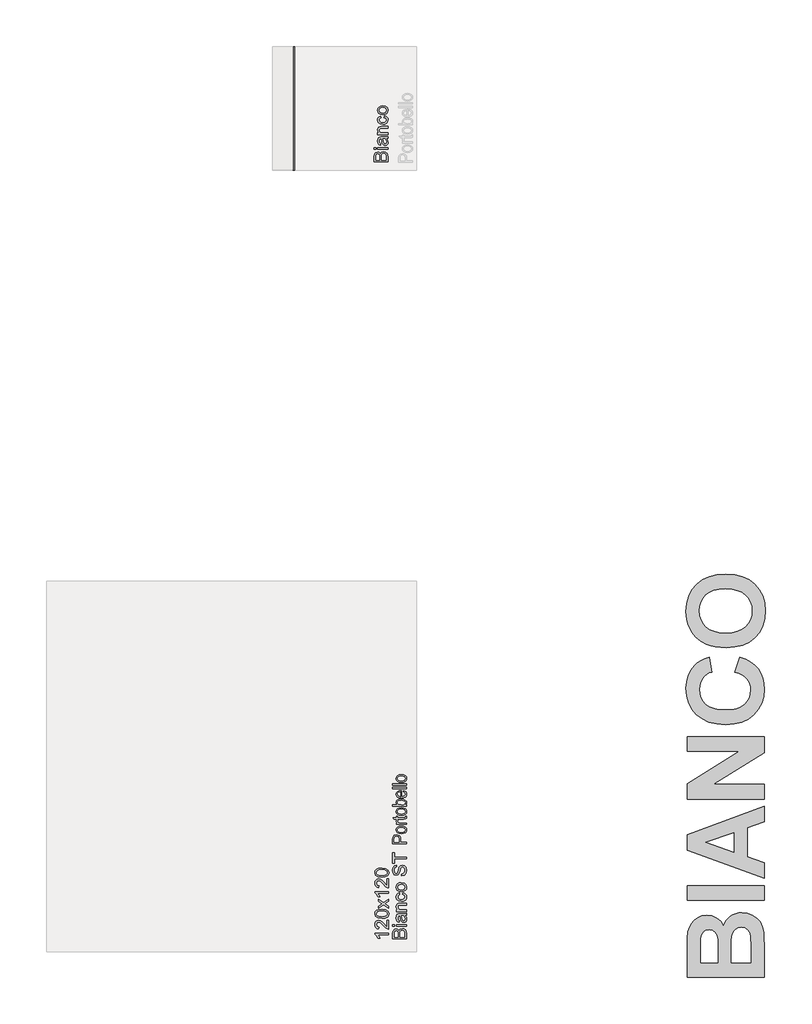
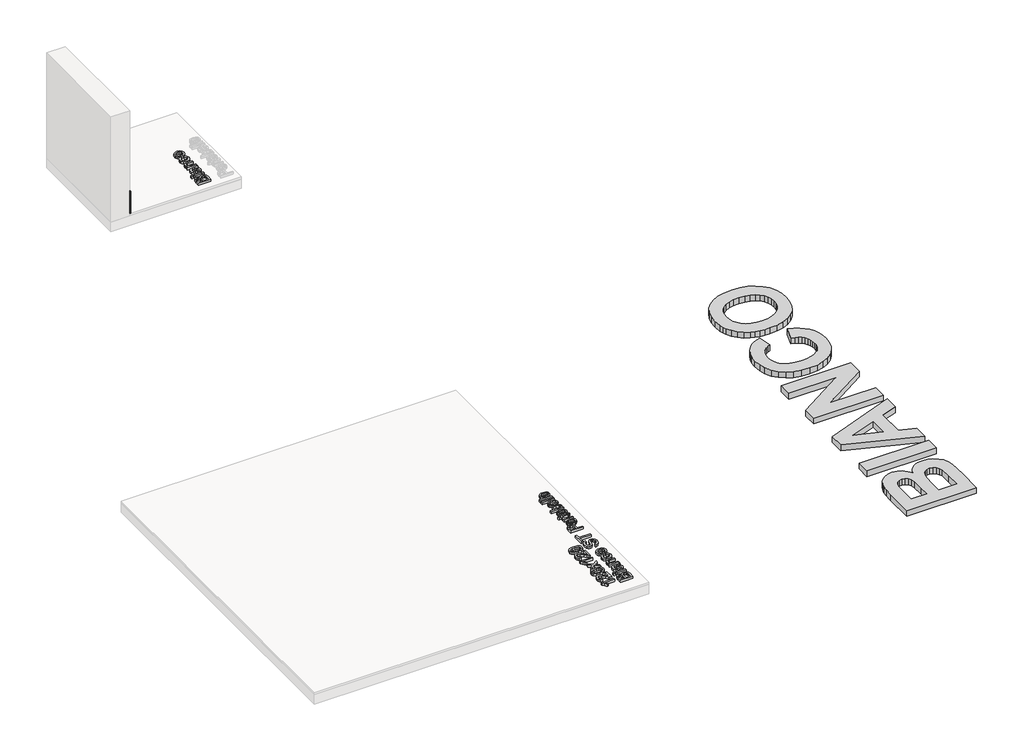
# One storey, part 12 of 14: 6 proxies.
"""IFC4 building model written with IfcOpenShell, lengths in millimetres."""

from ifc_helpers import new_model, si_unit, frame, origin, origin_with_axes, place, context, project, spatial, polyline, outline, extrude, element, save
from ifc_brep_helpers import plane_surface, extruded_surface, spline_curve, advanced_brep

model = new_model("IFC4")

# Units and contexts
model_context = context("Model", 3, world=origin())
ifc_project = project(units=[si_unit("LENGTHUNIT", "METRE", prefix="MILLI")], contexts=[model_context])

# Site, building, storey
site = spatial("IfcSite", under=ifc_project)
building = spatial("IfcBuilding", under=site)
storey = spatial("IfcBuildingStorey", under=building, Name="PORTOBELLO - SHOWROOM", Elevation=0.0)

# Proxies
placement = place(None, origin())
element("IfcBuildingElementProxy", 1, Name="RODAPE CRISTALLO BIANCO 20X90 NAT RET", ObjectType="RODAPE CRISTALLO BIANCO 20X90 NAT RET", at=placement, inside=storey, context=model_context, shape_type="AdvancedBrep", body=[
    advanced_brep(
    [(-5177.6369429, 22535.3842114, 217.0), (-5177.6369429, 22535.3842114, 17.0), (-5169.6369429, 22535.3842114, 17.0), (-5169.6369429, 22535.3842114, 209.0), (-5177.6369429, 23435.3842114, 217.0), (-5169.6369429, 23435.3842114, 209.0), (-5169.6369429, 23435.3842114, 17.0), (-5177.6369429, 23435.3842114, 17.0)],
    [
        (0, 1),
        (1, 2),
        (2, 3),
        (3, 0, spline_curve(3, [(-5169.6369429, 22535.3842114, 209.0), (-5169.6369429, 22535.3842114, 214.333333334), (-5172.303609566, 22535.3842114, 217.0), (-5177.6369429, 22535.3842114, 217.0)], [4, 4], [0.0, 0.029527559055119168])),
        (4, 5, spline_curve(3, [(-5177.6369429, 23435.3842114, 217.0), (-5172.303609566, 23435.3842114, 217.0), (-5169.6369429, 23435.3842114, 214.333333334), (-5169.6369429, 23435.3842114, 209.0)], [4, 4], [0.0, 0.029527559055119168])),
        (5, 6),
        (6, 7),
        (7, 4),
        (0, 4),
        (7, 1),
        (6, 2),
        (5, 3),
    ],
    [
        plane_surface(frame((-5377.6369429, 22535.3842114, 17.0), z_axis=(0.0, -1.0, 0.0), x_axis=(0.0, 0.0, 1.0))),
        plane_surface(frame((-5377.6369429, 23435.3842114, 17.0), z_axis=(0.0, 1.0, 0.0), x_axis=(0.0, 0.0, 1.0))),
        plane_surface(frame((-5177.6369429, 22535.3842114, 217.0), z_axis=(-1.0, 0.0, 0.0), x_axis=(0.0, 1.0, 0.0))),
        plane_surface(frame((-5177.6369429, 22535.3842114, 17.0), z_axis=(0.0, 0.0, -1.0), x_axis=(0.0, 1.0, 0.0))),
        plane_surface(frame((-5169.6369429, 22535.3842114, 17.0), z_axis=(1.0, 0.0, 0.0), x_axis=(0.0, 1.0, 0.0))),
        extruded_surface(spline_curve(3, [(-5169.6369429, 23435.3842114, 209.0), (-5169.6369429, 23435.3842114, 214.333333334), (-5172.303609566, 23435.3842114, 217.0), (-5177.6369429, 23435.3842114, 217.0)], [4, 4], [0.0, 0.029527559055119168]), (0.0, -900.0, 0.0), 900.0),
    ],
    [
        (0, [[1, 2, 3, 4]]),
        (1, [[5, 6, 7, 8]]),
        (2, [[-1, 9, -8, 10]]),
        (3, [[-2, -10, -7, 11]]),
        (4, [[-3, -11, -6, 12]]),
        (5, [[-4, -12, -5, -9]]),
    ],
),
])
element("IfcBuildingElementProxy", 2, Name="10mm Arial", ObjectType="10mm Arial", at=placement, inside=storey, context=model_context, shape_type="SweptSolid", body=[
    extrude(outline(polyline([(-4352.1931166, 16929.8621307), (-4452.6494267, 16929.8621307), (-4452.6494267, 16968.1954346), (-4449.694108, 16986.9696791), (-4440.6074227, 16998.0551899), (-4427.7560784, 17002.0651036), (-4416.0206427, 16998.692852), (-4407.1301612, 16988.5025207), (-4397.761433, 17000.8756185), (-4382.138711, 17005.2043633), (-4368.6374418, 17002.2490446), (-4359.0234589, 16994.9281929), (-4353.9221619, 16984.0020977), (-4352.1931166, 16967.901129), (-4352.1931166, 16929.8621307)]), holes=[polyline([(-4411.8390507, 16942.4191695), (-4411.8390507, 16965.3504805), (-4412.9181712, 16978.7413851), (-4417.5657471, 16986.7980008), (-4425.7449901, 16989.5080648), (-4433.9364959, 16986.9819418), (-4438.7802755, 16979.7469292), (-4440.0923879, 16963.6091724), (-4440.0923879, 16942.4191695), (-4411.8390507, 16942.4191695)]), polyline([(-4364.7501553, 16942.4191695), (-4364.7501553, 16968.1709091), (-4365.2406647, 16977.4905863), (-4367.9752542, 16985.3755238), (-4373.5547978, 16990.5994481), (-4382.0160836, 16992.6473245), (-4391.7772192, 16990.2438288), (-4397.6020175, 16982.4569933), (-4399.2820119, 16966.9446358), (-4399.2820119, 16942.4191695), (-4364.7501553, 16942.4191695)])]), frame((0.0, 0.0, 17.0), z_axis=(0.0, 0.0, 1.0), x_axis=(1.0, 0.0, 0.0)), (0.0, 0.0, 1.0), 20.0),
    extrude(outline(polyline([(-4440.0923879, 17020.9006618), (-4452.6494267, 17020.9006618), (-4452.6494267, 17033.4577005), (-4440.0923879, 17033.4577005), (-4440.0923879, 17020.9006618)])), frame((0.0, 0.0, 17.0), z_axis=(0.0, 0.0, 1.0), x_axis=(1.0, 0.0, 0.0)), (0.0, 0.0, 1.0), 20.0),
    extrude(outline(polyline([(-4352.1931166, 17020.9006618), (-4425.9657193, 17020.9006618), (-4425.9657193, 17033.4577005), (-4352.1931166, 17033.4577005), (-4352.1931166, 17020.9006618)])), frame((0.0, 0.0, 17.0), z_axis=(0.0, 0.0, 1.0), x_axis=(1.0, 0.0, 0.0)), (0.0, 0.0, 1.0), 20.0),
    extrude(outline(polyline([(-4361.6108956, 17099.3821541), (-4353.1005588, 17087.20526), (-4350.6234867, 17073.7530417), (-4352.1134088, 17063.2592078), (-4356.583175, 17055.5183575), (-4363.3705979, 17050.7450886), (-4371.8134896, 17049.153999), (-4381.7463035, 17051.5574947), (-4388.9567906, 17057.8728023), (-4393.077069, 17066.665182), (-4394.9655299, 17077.5299636), (-4399.2820119, 17099.3085777), (-4402.0779151, 17099.3821541), (-4411.3485414, 17095.9240633), (-4414.9783104, 17082.0426494), (-4412.562552, 17069.3384578), (-4403.9909015, 17063.2806676), (-4405.5605313, 17050.7236288), (-4417.8232645, 17056.1560196), (-4425.0092261, 17067.0943776), (-4427.5353492, 17083.6613301), (-4425.3035317, 17098.879382), (-4419.6994627, 17107.475558), (-4411.1768631, 17111.3260562), (-4400.1894542, 17111.9391928), (-4384.5667321, 17111.9391928), (-4362.7513298, 17112.576855), (-4352.1931166, 17115.0784525), (-4352.1931166, 17102.5214138), (-4361.6108956, 17099.3821541)]), holes=[polyline([(-4386.7249732, 17099.3821541), (-4382.874475, 17079.1241189), (-4380.8388613, 17068.3206509), (-4377.5279233, 17063.4278204), (-4372.6964064, 17061.7110378), (-4365.9028523, 17065.4511714), (-4363.1805255, 17076.4263176), (-4366.1848951, 17089.1305091), (-4373.4566959, 17097.3220149), (-4383.1687806, 17099.3085777), (-4386.7249732, 17099.3821541)])]), frame((0.0, 0.0, 17.0), z_axis=(0.0, 0.0, 1.0), x_axis=(1.0, 0.0, 0.0)), (0.0, 0.0, 1.0), 20.0),
    extrude(outline(polyline([(-4352.1931166, 17129.2051211), (-4425.9657193, 17129.2051211), (-4425.9657193, 17141.7621599), (-4415.6650235, 17141.7621599), (-4424.5677678, 17151.36388), (-4427.5353492, 17164.4727418), (-4425.1441162, 17176.3308047), (-4418.8655968, 17184.4242086), (-4409.6317587, 17188.1888677), (-4397.4916529, 17188.8510553), (-4352.1931166, 17188.8510553), (-4352.1931166, 17176.2940165), (-4395.7993957, 17176.2940165), (-4406.909432, 17174.847014), (-4412.7832812, 17169.7334543), (-4414.9783104, 17161.1127529), (-4410.0486917, 17147.4888563), (-4402.9056496, 17143.193834), (-4391.3357609, 17141.7621599), (-4352.1931166, 17141.7621599), (-4352.1931166, 17129.2051211)])), frame((0.0, 0.0, 17.0), z_axis=(0.0, 0.0, 1.0), x_axis=(1.0, 0.0, 0.0)), (0.0, 0.0, 1.0), 20.0),
    extrude(outline(polyline([(-4378.8768239, 17253.205879), (-4377.3071941, 17265.7629178), (-4366.1389099, 17262.2619074), (-4357.6990838, 17255.6829511), (-4352.392386, 17246.6453167), (-4350.6234867, 17235.7682724), (-4353.0913618, 17222.4110903), (-4360.4949869, 17211.9663073), (-4372.5093997, 17205.2248698), (-4388.8096378, 17202.9777239), (-4409.6685469, 17206.8159594), (-4423.0717143, 17218.5146068), (-4427.5353492, 17235.5965942), (-4426.0025075, 17246.206924), (-4421.4039826, 17254.6896697), (-4413.985029, 17260.775051), (-4403.9909015, 17264.1932879), (-4402.4212716, 17251.6362491), (-4411.826788, 17245.8114509), (-4414.9783104, 17235.694696), (-4413.4270747, 17227.5798323), (-4408.7733674, 17221.1388317), (-4400.7658027, 17216.9357799), (-4389.1529943, 17215.5347627), (-4377.3838362, 17216.9051231), (-4369.3486803, 17221.0162044), (-4364.7225642, 17227.340709), (-4363.1805255, 17235.3513395), (-4367.0310237, 17247.184877), (-4378.8768239, 17253.205879)])), frame((0.0, 0.0, 17.0), z_axis=(0.0, 0.0, 1.0), x_axis=(1.0, 0.0, 0.0)), (0.0, 0.0, 1.0), 20.0),
    extrude(outline(polyline([(-4389.0794179, 17273.611067), (-4406.8665124, 17276.3272624), (-4419.3683689, 17284.4758486), (-4425.4936041, 17294.5435525), (-4427.5353492, 17306.5978192), (-4425.04908, 17319.7894544), (-4417.5902726, 17330.3262079), (-4405.747538, 17337.2331924), (-4390.1094875, 17339.5355205), (-4367.7667877, 17335.4642931), (-4355.1239098, 17323.6062301), (-4350.6234867, 17306.5978192), (-4353.1005588, 17293.2467685), (-4360.5317751, 17282.7222777), (-4372.62283, 17275.8888697), (-4389.0794179, 17273.611067)]), holes=[polyline([(-4389.1039434, 17286.1681058), (-4377.7394554, 17287.6212396), (-4369.6429859, 17291.9806413), (-4364.7961406, 17298.5412035), (-4363.1805255, 17306.5978192), (-4364.8053376, 17314.6176467), (-4369.6797741, 17321.1659462), (-4377.8835426, 17325.5253479), (-4389.4963509, 17326.9784818), (-4400.529745, 17325.5161508), (-4408.51585, 17321.129158), (-4413.3626953, 17314.5716615), (-4414.9783104, 17306.5978192), (-4413.3688267, 17298.5412035), (-4408.5403755, 17291.9806413), (-4400.4623, 17287.6212396), (-4389.1039434, 17286.1681058)])]), frame((0.0, 0.0, 17.0), z_axis=(0.0, 0.0, 1.0), x_axis=(1.0, 0.0, 0.0)), (0.0, 0.0, 1.0), 20.0),
    extrude(outline(polyline([(-4386.7249732, 17389.7636756), (-4386.7249732, 17402.3207144), (-4374.1556717, 17406.3674163), (-4366.2094206, 17416.2511793), (-4363.1805255, 17431.3098156), (-4365.4736566, 17444.4309401), (-4371.7767014, 17452.9044887), (-4380.2011991, 17455.6881291), (-4388.0370856, 17453.6034645), (-4393.7392566, 17445.0686022), (-4398.5339852, 17426.784867), (-4404.7266655, 17407.1031803), (-4414.0708682, 17396.4223397), (-4426.5543305, 17392.9029353), (-4440.7668383, 17397.2562056), (-4450.797754, 17409.9726599), (-4454.2190566, 17428.5874888), (-4450.6383385, 17448.4531166), (-4440.1169134, 17461.6968684), (-4424.3960895, 17466.6755381), (-4424.3960895, 17454.1184993), (-4431.8886195, 17451.8131055), (-4437.2964848, 17447.006114), (-4441.6620178, 17429.0779981), (-4437.3455357, 17411.1008313), (-4426.9222125, 17405.4599741), (-4418.215672, 17409.4576251), (-4411.2013886, 17429.9609149), (-4404.8983437, 17452.1809874), (-4394.7202752, 17464.333356), (-4380.5200302, 17468.2451679), (-4365.4981821, 17463.7447448), (-4354.5352986, 17450.7952986), (-4350.6234867, 17431.8003249), (-4354.8418669, 17409.3717859), (-4367.5460585, 17395.1838037), (-4386.7249732, 17389.7636756)])), frame((0.0, 0.0, 17.0), z_axis=(0.0, 0.0, 1.0), x_axis=(1.0, 0.0, 0.0)), (0.0, 0.0, 1.0), 20.0),
    extrude(outline(polyline([(-4352.1931166, 17512.1948036), (-4440.0923879, 17512.1948036), (-4440.0923879, 17479.2325768), (-4452.6494267, 17479.2325768), (-4452.6494267, 17557.7140691), (-4440.0923879, 17557.7140691), (-4440.0923879, 17524.7518424), (-4352.1931166, 17524.7518424), (-4352.1931166, 17512.1948036)])), frame((0.0, 0.0, 17.0), z_axis=(0.0, 0.0, 1.0), x_axis=(1.0, 0.0, 0.0)), (0.0, 0.0, 1.0), 20.0),
])
element("IfcBuildingElementProxy", 3, Name="10mm Arial", ObjectType="10mm Arial", at=placement, inside=storey, context=model_context, shape_type="SweptSolid", body=[
    extrude(outline(polyline([(-4482.1931166, 16972.2421365), (-4482.1931166, 16959.6850978), (-4560.4784051, 16959.6850978), (-4552.0048565, 16947.7902466), (-4545.6650235, 16934.5710202), (-4557.5353492, 16934.5710202), (-4569.2830476, 16952.9773827), (-4582.6494267, 16964.1487326), (-4582.6494267, 16972.2421365), (-4482.1931166, 16972.2421365)])), frame((0.0, 0.0, 17.0), z_axis=(0.0, 0.0, 1.0), x_axis=(1.0, 0.0, 0.0)), (0.0, 0.0, 1.0), 20.0),
    extrude(outline(polyline([(-4494.7501553, 17066.4199273), (-4482.1931166, 17066.4199273), (-4482.1931166, 17000.4954738), (-4490.8506062, 17001.8443744), (-4504.1801971, 17009.4840572), (-4518.7360614, 17025.2171438), (-4539.6562842, 17046.8853934), (-4553.8810547, 17052.2932587), (-4565.3957611, 17047.179699), (-4570.0923879, 17033.8255825), (-4565.5061257, 17019.9073804), (-4552.8264596, 17014.6221424), (-4554.3960895, 17002.0651036), (-4566.5423267, 17005.1093271), (-4575.4144141, 17011.6913492), (-4580.8406736, 17021.4678132), (-4582.6494267, 17034.0953627), (-4580.6383385, 17046.8148826), (-4574.6050738, 17056.5729526), (-4565.5919649, 17062.7809612), (-4554.6413441, 17064.8502975), (-4542.7342302, 17062.61848), (-4530.4224461, 17055.1995265), (-4513.2178315, 17037.2100969), (-4501.1390393, 17022.7645972), (-4494.7501553, 17017.0992145), (-4494.7501553, 17066.4199273)])), frame((0.0, 0.0, 17.0), z_axis=(0.0, 0.0, 1.0), x_axis=(1.0, 0.0, 0.0)), (0.0, 0.0, 1.0), 20.0),
    extrude(outline(polyline([(-4531.6119313, 17078.9769661), (-4560.5151933, 17082.6680488), (-4577.1802477, 17093.6309322), (-4582.6494267, 17111.9391928), (-4579.4120652, 17126.6054217), (-4570.0801252, 17136.7344393), (-4555.2176926, 17142.6205512), (-4531.6119313, 17144.9014196), (-4502.8312965, 17141.2471251), (-4486.1294539, 17130.3210299), (-4481.9999785, 17122.0896702), (-4480.6234867, 17111.9391928), (-4483.0147197, 17098.8916447), (-4490.1884186, 17088.9833563), (-4507.1784354, 17081.4785636), (-4531.6119313, 17078.9769661)]), holes=[polyline([(-4531.6364567, 17091.5340048), (-4511.8842593, 17093.0055328), (-4500.4523263, 17097.4201168), (-4494.9984757, 17103.9929417), (-4493.1805255, 17111.9391928), (-4495.004607, 17119.8854439), (-4500.4768517, 17126.4582689), (-4511.9149161, 17130.8728529), (-4531.6364567, 17132.3443808), (-4550.9441301, 17130.9219038), (-4562.4649679, 17126.6544726), (-4568.1855329, 17120.0939104), (-4570.0923879, 17111.79204), (-4568.4123935, 17103.9316281), (-4563.3724102, 17097.6163205), (-4551.1342025, 17093.0545838), (-4531.6364567, 17091.5340048)])]), frame((0.0, 0.0, 17.0), z_axis=(0.0, 0.0, 1.0), x_axis=(1.0, 0.0, 0.0)), (0.0, 0.0, 1.0), 20.0),
    extrude(outline(polyline([(-4482.1931166, 17151.179939), (-4519.3001471, 17178.0107992), (-4555.9657193, 17152.7495688), (-4555.9657193, 17167.8082052), (-4538.2828581, 17179.9973619), (-4529.968725, 17185.7117956), (-4536.7868047, 17190.6659398), (-4555.9657193, 17204.5473538), (-4555.9657193, 17219.655041), (-4519.2756217, 17193.1184864), (-4482.1931166, 17218.6740224), (-4482.1931166, 17203.5908606), (-4504.5112909, 17188.1888677), (-4508.6070438, 17185.3929645), (-4482.1931166, 17166.2876263), (-4482.1931166, 17151.179939)])), frame((0.0, 0.0, 17.0), z_axis=(0.0, 0.0, 1.0), x_axis=(1.0, 0.0, 0.0)), (0.0, 0.0, 1.0), 20.0),
    extrude(outline(polyline([(-4482.1931166, 17273.611067), (-4482.1931166, 17261.0540282), (-4560.4784051, 17261.0540282), (-4552.0048565, 17249.159177), (-4545.6650235, 17235.9399507), (-4557.5353492, 17235.9399507), (-4569.2830476, 17254.3463132), (-4582.6494267, 17265.5176631), (-4582.6494267, 17273.611067), (-4482.1931166, 17273.611067)])), frame((0.0, 0.0, 17.0), z_axis=(0.0, 0.0, 1.0), x_axis=(1.0, 0.0, 0.0)), (0.0, 0.0, 1.0), 20.0),
    extrude(outline(polyline([(-4494.7501553, 17367.7888578), (-4482.1931166, 17367.7888578), (-4482.1931166, 17301.8644042), (-4490.8506062, 17303.2133049), (-4504.1801971, 17310.8529876), (-4518.7360614, 17326.5860743), (-4539.6562842, 17348.2543238), (-4553.8810547, 17353.6621891), (-4565.3957611, 17348.5486294), (-4570.0923879, 17335.194513), (-4565.5061257, 17321.2763108), (-4552.8264596, 17315.9910728), (-4554.3960895, 17303.4340341), (-4566.5423267, 17306.4782576), (-4575.4144141, 17313.0602796), (-4580.8406736, 17322.8367436), (-4582.6494267, 17335.4642931), (-4580.6383385, 17348.1838131), (-4574.6050738, 17357.941883), (-4565.5919649, 17364.1498917), (-4554.6413441, 17366.2192279), (-4542.7342302, 17363.9874105), (-4530.4224461, 17356.5684569), (-4513.2178315, 17338.5790273), (-4501.1390393, 17324.1335277), (-4494.7501553, 17318.4681449), (-4494.7501553, 17367.7888578)])), frame((0.0, 0.0, 17.0), z_axis=(0.0, 0.0, 1.0), x_axis=(1.0, 0.0, 0.0)), (0.0, 0.0, 1.0), 20.0),
    extrude(outline(polyline([(-4531.6119313, 17380.3458965), (-4560.5151933, 17384.0369792), (-4577.1802477, 17394.9998627), (-4582.6494267, 17413.3081233), (-4579.4120652, 17427.9743522), (-4570.0801252, 17438.1033698), (-4555.2176926, 17443.9894817), (-4531.6119313, 17446.2703501), (-4502.8312965, 17442.6160556), (-4486.1294539, 17431.6899603), (-4481.9999785, 17423.4586007), (-4480.6234867, 17413.3081233), (-4483.0147197, 17400.2605752), (-4490.1884186, 17390.3522868), (-4507.1784354, 17382.8474941), (-4531.6119313, 17380.3458965)]), holes=[polyline([(-4531.6364567, 17392.9029353), (-4511.8842593, 17394.3744633), (-4500.4523263, 17398.7890472), (-4494.9984757, 17405.3618722), (-4493.1805255, 17413.3081233), (-4495.004607, 17421.2543744), (-4500.4768517, 17427.8271994), (-4511.9149161, 17432.2417833), (-4531.6364567, 17433.7133113), (-4550.9441301, 17432.2908342), (-4562.4649679, 17428.0234031), (-4568.1855329, 17421.4628408), (-4570.0923879, 17413.1609705), (-4568.4123935, 17405.3005585), (-4563.3724102, 17398.9852509), (-4551.1342025, 17394.4235142), (-4531.6364567, 17392.9029353)])]), frame((0.0, 0.0, 17.0), z_axis=(0.0, 0.0, 1.0), x_axis=(1.0, 0.0, 0.0)), (0.0, 0.0, 1.0), 20.0),
])
element("IfcBuildingElementProxy", 4, Name="10mm Arial", ObjectType="10mm Arial", at=placement, inside=storey, context=model_context, shape_type="SweptSolid", body=[
    extrude(outline(polyline([(-4487.6369429, 22594.2602677), (-4588.0932531, 22594.2602677), (-4588.0932531, 22632.5935716), (-4585.1379344, 22651.3678161), (-4576.0512491, 22662.4533269), (-4563.1999047, 22666.4632406), (-4551.4644691, 22663.090989), (-4542.5739875, 22652.9006577), (-4533.2052594, 22665.2737555), (-4517.5825373, 22669.6025003), (-4504.0812681, 22666.6471816), (-4494.4672853, 22659.3263299), (-4489.3659883, 22648.4002346), (-4487.6369429, 22632.299266), (-4487.6369429, 22594.2602677)]), holes=[polyline([(-4547.2828771, 22606.8173065), (-4547.2828771, 22629.7486175), (-4548.3619976, 22643.1395221), (-4553.0095735, 22651.1961378), (-4561.1888165, 22653.9062018), (-4569.3803222, 22651.3800788), (-4574.2241018, 22644.1450662), (-4575.5362143, 22628.0073094), (-4575.5362143, 22606.8173065), (-4547.2828771, 22606.8173065)]), polyline([(-4500.1939817, 22606.8173065), (-4500.1939817, 22632.5690461), (-4500.684491, 22641.8887233), (-4503.4190805, 22649.7736608), (-4508.9986241, 22654.9975851), (-4517.45991, 22657.0454615), (-4527.2210456, 22654.6419658), (-4533.0458439, 22646.8551303), (-4534.7258383, 22631.3427728), (-4534.7258383, 22606.8173065), (-4500.1939817, 22606.8173065)])]), frame((0.0, 0.0, 18.0), z_axis=(0.0, 0.0, 1.0), x_axis=(1.0, 0.0, 0.0)), (0.0, 0.0, 1.0), 20.0),
    extrude(outline(polyline([(-4575.5362143, 22685.2987988), (-4588.0932531, 22685.2987988), (-4588.0932531, 22697.8558375), (-4575.5362143, 22697.8558375), (-4575.5362143, 22685.2987988)])), frame((0.0, 0.0, 18.0), z_axis=(0.0, 0.0, 1.0), x_axis=(1.0, 0.0, 0.0)), (0.0, 0.0, 1.0), 20.0),
    extrude(outline(polyline([(-4487.6369429, 22685.2987988), (-4561.4095457, 22685.2987988), (-4561.4095457, 22697.8558375), (-4487.6369429, 22697.8558375), (-4487.6369429, 22685.2987988)])), frame((0.0, 0.0, 18.0), z_axis=(0.0, 0.0, 1.0), x_axis=(1.0, 0.0, 0.0)), (0.0, 0.0, 1.0), 20.0),
    extrude(outline(polyline([(-4497.054722, 22763.7802911), (-4488.5443852, 22751.603397), (-4486.0673131, 22738.1511787), (-4487.5572352, 22727.6573448), (-4492.0270014, 22719.9164945), (-4498.8144242, 22715.1432256), (-4507.257316, 22713.552136), (-4517.1901299, 22715.9556317), (-4524.400617, 22722.2709393), (-4528.5208953, 22731.063319), (-4530.4093562, 22741.9281005), (-4534.7258383, 22763.7067147), (-4537.5217415, 22763.7802911), (-4546.7923677, 22760.3222003), (-4550.4221368, 22746.4407864), (-4548.0063783, 22733.7365948), (-4539.4347278, 22727.6788046), (-4541.0043577, 22715.1217658), (-4553.2670909, 22720.5541566), (-4560.4530525, 22731.4925146), (-4562.9791755, 22748.0594671), (-4560.7473581, 22763.277519), (-4555.143289, 22771.873695), (-4546.6206895, 22775.7241932), (-4535.6332806, 22776.3373298), (-4520.0105585, 22776.3373298), (-4498.1951562, 22776.974992), (-4487.6369429, 22779.4765895), (-4487.6369429, 22766.9195508), (-4497.054722, 22763.7802911)]), holes=[polyline([(-4522.1687995, 22763.7802911), (-4518.3183013, 22743.5222559), (-4516.2826876, 22732.7187879), (-4512.9717497, 22727.8259574), (-4508.1402328, 22726.1091748), (-4501.3466786, 22729.8493084), (-4498.6243518, 22740.8244546), (-4501.6287215, 22753.5286461), (-4508.9005222, 22761.7201519), (-4518.6126069, 22763.7067147), (-4522.1687995, 22763.7802911)])]), frame((0.0, 0.0, 18.0), z_axis=(0.0, 0.0, 1.0), x_axis=(1.0, 0.0, 0.0)), (0.0, 0.0, 1.0), 20.0),
    extrude(outline(polyline([(-4487.6369429, 22793.6032581), (-4561.4095457, 22793.6032581), (-4561.4095457, 22806.1602969), (-4551.1088498, 22806.1602969), (-4560.0115941, 22815.762017), (-4562.9791755, 22828.8708787), (-4560.5879426, 22840.7289417), (-4554.3094232, 22848.8223456), (-4545.0755851, 22852.5870047), (-4532.9354793, 22853.2491923), (-4487.6369429, 22853.2491923), (-4487.6369429, 22840.6921535), (-4531.2432221, 22840.6921535), (-4542.3532583, 22839.245151), (-4548.2271075, 22834.1315913), (-4550.4221368, 22825.5108899), (-4545.492518, 22811.8869933), (-4538.349476, 22807.591971), (-4526.7795872, 22806.1602969), (-4487.6369429, 22806.1602969), (-4487.6369429, 22793.6032581)])), frame((0.0, 0.0, 18.0), z_axis=(0.0, 0.0, 1.0), x_axis=(1.0, 0.0, 0.0)), (0.0, 0.0, 1.0), 20.0),
    extrude(outline(polyline([(-4514.3206503, 22917.604016), (-4512.7510205, 22930.1610547), (-4501.5827362, 22926.6600444), (-4493.1429101, 22920.0810881), (-4487.8362123, 22911.0434537), (-4486.0673131, 22900.1664094), (-4488.5351881, 22886.8092273), (-4495.9388133, 22876.3644443), (-4507.9532261, 22869.6230068), (-4524.2534642, 22867.3758609), (-4545.1123733, 22871.2140964), (-4558.5155407, 22882.9127438), (-4562.9791755, 22899.9947311), (-4561.4463339, 22910.605061), (-4556.8478089, 22919.0878067), (-4549.4288554, 22925.173188), (-4539.4347278, 22928.5914249), (-4537.865098, 22916.0343861), (-4547.2706143, 22910.2095879), (-4550.4221368, 22900.092833), (-4548.870901, 22891.9779693), (-4544.2171938, 22885.5369687), (-4536.209629, 22881.3339169), (-4524.5968207, 22879.9328997), (-4512.8276625, 22881.3032601), (-4504.7925066, 22885.4143414), (-4500.1663905, 22891.738846), (-4498.6243518, 22899.7494765), (-4502.4748501, 22911.583014), (-4514.3206503, 22917.604016)])), frame((0.0, 0.0, 18.0), z_axis=(0.0, 0.0, 1.0), x_axis=(1.0, 0.0, 0.0)), (0.0, 0.0, 1.0), 20.0),
    extrude(outline(polyline([(-4524.5232443, 22938.009204), (-4542.3103388, 22940.7253994), (-4554.8121952, 22948.8739856), (-4560.9374305, 22958.9416895), (-4562.9791755, 22970.9959562), (-4560.4929064, 22984.1875914), (-4553.0340989, 22994.7243449), (-4541.1913644, 23001.6313294), (-4525.5533139, 23003.9336575), (-4503.210614, 22999.8624301), (-4490.5677361, 22988.0043671), (-4486.0673131, 22970.9959562), (-4488.5443852, 22957.6449055), (-4495.9756015, 22947.1204147), (-4508.0666564, 22940.2870067), (-4524.5232443, 22938.009204)]), holes=[polyline([(-4524.5477698, 22950.5662427), (-4513.1832818, 22952.0193766), (-4505.0868122, 22956.3787783), (-4500.2399669, 22962.9393405), (-4498.6243518, 22970.9959562), (-4500.249164, 22979.0157837), (-4505.1236004, 22985.5640832), (-4513.3273689, 22989.9234849), (-4524.9401772, 22991.3766187), (-4535.9735714, 22989.9142878), (-4543.9596764, 22985.527295), (-4548.8065217, 22978.9697985), (-4550.4221368, 22970.9959562), (-4548.812653, 22962.9393405), (-4543.9842018, 22956.3787783), (-4535.9061264, 22952.0193766), (-4524.5477698, 22950.5662427)])]), frame((0.0, 0.0, 18.0), z_axis=(0.0, 0.0, 1.0), x_axis=(1.0, 0.0, 0.0)), (0.0, 0.0, 1.0), 20.0),
])
element("IfcBuildingElementProxy", 5, Name="10mm Arial Narrow", ObjectType="10mm Arial Narrow", at=placement, inside=storey, context=model_context, shape_type="SweptSolid", body=[
    extrude(outline(polyline([(-4352.1931166, 17624.5809264), (-4452.9117203, 17624.5809264), (-4452.9117203, 17655.8778111), (-4451.0333996, 17672.1735126), (-4441.5529564, 17683.6464987), (-4424.5338476, 17687.9361772), (-4412.4580221, 17686.1498688), (-4402.8316283, 17680.7909436), (-4396.5303699, 17671.0471547), (-4394.4299504, 17656.1062555), (-4394.4299504, 17634.3278881), (-4352.1931166, 17634.3278881), (-4352.1931166, 17624.5809264)]), holes=[polyline([(-4405.8014057, 17634.3278881), (-4405.8014057, 17657.299243), (-4410.3322199, 17673.1634384), (-4424.0008106, 17678.1892155), (-4434.166587, 17675.714401), (-4439.9665369, 17669.7367722), (-4441.5402651, 17657.0707986), (-4441.5402651, 17634.3278881), (-4405.8014057, 17634.3278881)])]), frame((0.0, 0.0, 17.0), z_axis=(0.0, 0.0, 1.0), x_axis=(1.0, 0.0, 0.0)), (0.0, 0.0, 1.0), 20.0),
    extrude(outline(polyline([(-4388.7442228, 17696.0586452), (-4405.3349983, 17698.0131141), (-4417.2870831, 17703.8765207), (-4424.5116377, 17712.7350874), (-4426.9198226, 17723.6750366), (-4424.5116377, 17734.4880721), (-4417.2870831, 17743.3720216), (-4405.5253687, 17749.3115763), (-4389.5057041, 17751.2914279), (-4372.3438176, 17749.3464776), (-4360.2013624, 17743.5116265), (-4352.9768078, 17734.6625783), (-4350.568623, 17723.6750366), (-4352.9831535, 17712.8144084), (-4360.2267451, 17703.9399775), (-4372.1851756, 17698.0289783), (-4388.7442228, 17696.0586452)]), holes=[polyline([(-4388.7696055, 17705.8056069), (-4376.2178541, 17707.1096437), (-4367.346596, 17711.0217543), (-4362.0733375, 17716.8629511), (-4360.3155846, 17723.9542464), (-4362.0892017, 17730.6743196), (-4367.4100528, 17736.3663929), (-4376.2971751, 17740.2499479), (-4388.7696055, 17741.5444663), (-4401.2832828, 17740.2404294), (-4410.1418495, 17736.3283188), (-4415.4151081, 17730.4871221), (-4417.1728609, 17723.3958267), (-4415.4055896, 17716.628161), (-4410.1037755, 17710.9456062), (-4401.2356902, 17707.0906067), (-4388.7696055, 17705.8056069)])]), frame((0.0, 0.0, 17.0), z_axis=(0.0, 0.0, 1.0), x_axis=(1.0, 0.0, 0.0)), (0.0, 0.0, 1.0), 20.0),
    extrude(outline(polyline([(-4360.3155846, 17822.7691467), (-4350.568623, 17824.3936403), (-4350.568623, 17817.0326537), (-4352.6880795, 17808.7578893), (-4358.4880293, 17804.4428282), (-4373.1338545, 17803.2752234), (-4415.5483673, 17803.2752234), (-4415.5483673, 17795.1527554), (-4418.7973545, 17795.1527554), (-4413.9238737, 17793.5282617), (-4415.5483673, 17785.9642134), (-4413.2258491, 17779.8850537), (-4406.740566, 17776.01419), (-4391.3332595, 17774.0343384), (-4352.1931166, 17774.0343384), (-4352.1931166, 17764.2873768), (-4425.295329, 17764.2873768), (-4425.295329, 17774.0343384), (-4415.5991327, 17774.0343384), (-4424.6861439, 17780.2784858), (-4426.9198226, 17786.6749293), (-4425.295329, 17795.1527554), (-4425.295329, 17803.2752234), (-4441.5402651, 17803.2752234), (-4449.6627331, 17813.0221851), (-4425.295329, 17813.0221851), (-4425.295329, 17822.7691467), (-4415.5483673, 17822.7691467), (-4415.5483673, 17813.0221851), (-4370.9001758, 17813.0221851), (-4362.9046213, 17813.8851973), (-4360.3155846, 17818.504851), (-4360.3155846, 17822.7691467)])), frame((0.0, 0.0, 17.0), z_axis=(0.0, 0.0, 1.0), x_axis=(1.0, 0.0, 0.0)), (0.0, 0.0, 1.0), 20.0),
    extrude(outline(polyline([(-4388.7442228, 17829.2671211), (-4405.3349983, 17831.22159), (-4417.2870831, 17837.0849966), (-4424.5116377, 17845.9435633), (-4426.9198226, 17856.8835125), (-4424.5116377, 17867.6965481), (-4417.2870831, 17876.5804975), (-4405.5253687, 17882.5200523), (-4389.5057041, 17884.4999038), (-4372.3438176, 17882.5549535), (-4360.2013624, 17876.7201024), (-4352.9768078, 17867.8710542), (-4350.568623, 17856.8835125), (-4352.9831535, 17846.0228843), (-4360.2267451, 17837.1484534), (-4372.1851756, 17831.2374542), (-4388.7442228, 17829.2671211)]), holes=[polyline([(-4388.7696055, 17839.0140828), (-4376.2178541, 17840.3181197), (-4367.346596, 17844.2302302), (-4362.0733375, 17850.071427), (-4360.3155846, 17857.1627223), (-4362.0892017, 17863.8827955), (-4367.4100528, 17869.5748688), (-4376.2971751, 17873.4584238), (-4388.7696055, 17874.7529422), (-4401.2832828, 17873.4489053), (-4410.1418495, 17869.5367947), (-4415.4151081, 17863.695598), (-4417.1728609, 17856.6043027), (-4415.4055896, 17849.8366369), (-4410.1037755, 17844.1540821), (-4401.2356902, 17840.2990826), (-4388.7696055, 17839.0140828)])]), frame((0.0, 0.0, 17.0), z_axis=(0.0, 0.0, 1.0), x_axis=(1.0, 0.0, 0.0)), (0.0, 0.0, 1.0), 20.0),
    extrude(outline(polyline([(-4352.1931166, 17907.2428144), (-4352.1931166, 17897.4958527), (-4452.9117203, 17897.4958527), (-4452.9117203, 17907.2428144), (-4417.5028362, 17907.2428144), (-4424.584613, 17914.6418751), (-4426.9198226, 17923.8431084), (-4422.7189836, 17936.7248351), (-4409.9895532, 17946.0022166), (-4389.3026424, 17949.4796482), (-4372.848299, 17947.5473892), (-4360.6455599, 17941.7506122), (-4353.0878572, 17933.3774899), (-4350.568623, 17923.7161949), (-4353.1830424, 17914.3753566), (-4360.9501524, 17907.2428144), (-4352.1931166, 17907.2428144)]), holes=[polyline([(-4389.3026424, 17907.2428144), (-4372.0550892, 17909.3241968), (-4363.3234361, 17915.2129861), (-4360.3155846, 17923.6654295), (-4362.1050659, 17929.608157), (-4367.4735096, 17934.8465144), (-4388.896519, 17939.7326866), (-4410.3322199, 17935.0241934), (-4415.4627007, 17929.7794904), (-4417.1728609, 17923.4623677), (-4415.3833797, 17917.4847389), (-4410.014936, 17912.1924433), (-4389.3026424, 17907.2428144)])]), frame((0.0, 0.0, 17.0), z_axis=(0.0, 0.0, 1.0), x_axis=(1.0, 0.0, 0.0)), (0.0, 0.0, 1.0), 20.0),
    extrude(outline(polyline([(-4374.9360271, 18001.4634437), (-4373.3115335, 18011.2104053), (-4363.4249669, 18007.510875), (-4356.305116, 18001.6918881), (-4352.0027462, 17993.9882348), (-4350.568623, 17984.6347052), (-4352.9831535, 17973.0411512), (-4360.2267451, 17963.897029), (-4372.0328793, 17957.9574742), (-4388.1350377, 17955.9776226), (-4404.8019614, 17957.9669927), (-4416.9824906, 17963.9351031), (-4424.4354896, 17972.9491389), (-4426.9198226, 17984.0762855), (-4424.5211562, 17994.7592347), (-4417.3251572, 18003.5067521), (-4405.5856526, 18009.3416031), (-4389.5564696, 18011.2865535), (-4386.3074824, 18011.2104053), (-4386.3074824, 17965.7245843), (-4366.8643245, 17971.7275958), (-4361.9527696, 17977.6576321), (-4360.3155846, 17984.7616188), (-4363.9706952, 17994.9400865), (-4374.9360271, 18001.4634437)]), holes=[polyline([(-4396.054444, 17966.3845348), (-4396.054444, 18001.4634437), (-4410.3195285, 17997.199148), (-4415.4595278, 17991.3738154), (-4417.1728609, 17984.1524337), (-4411.4617506, 17971.9433489), (-4396.054444, 17966.3845348)])]), frame((0.0, 0.0, 17.0), z_axis=(0.0, 0.0, 1.0), x_axis=(1.0, 0.0, 0.0)), (0.0, 0.0, 1.0), 20.0),
    extrude(outline(polyline([(-4352.1931166, 18024.2063542), (-4452.9117203, 18024.2063542), (-4452.9117203, 18033.9533159), (-4352.1931166, 18033.9533159), (-4352.1931166, 18024.2063542)])), frame((0.0, 0.0, 17.0), z_axis=(0.0, 0.0, 1.0), x_axis=(1.0, 0.0, 0.0)), (0.0, 0.0, 1.0), 20.0),
    extrude(outline(polyline([(-4352.1931166, 18050.198252), (-4452.9117203, 18050.198252), (-4452.9117203, 18059.9452136), (-4352.1931166, 18059.9452136), (-4352.1931166, 18050.198252)])), frame((0.0, 0.0, 17.0), z_axis=(0.0, 0.0, 1.0), x_axis=(1.0, 0.0, 0.0)), (0.0, 0.0, 1.0), 20.0),
    extrude(outline(polyline([(-4388.7442228, 18071.3166689), (-4405.3349983, 18073.2711377), (-4417.2870831, 18079.1345444), (-4424.5116377, 18087.9931111), (-4426.9198226, 18098.9330602), (-4424.5116377, 18109.7460958), (-4417.2870831, 18118.6300452), (-4405.5253687, 18124.5696), (-4389.5057041, 18126.5494516), (-4372.3438176, 18124.6045012), (-4360.2013624, 18118.7696502), (-4352.9768078, 18109.920602), (-4350.568623, 18098.9330602), (-4352.9831535, 18088.0724321), (-4360.2267451, 18079.1980011), (-4372.1851756, 18073.2870019), (-4388.7442228, 18071.3166689)]), holes=[polyline([(-4388.7696055, 18081.0636305), (-4376.2178541, 18082.3676674), (-4367.346596, 18086.279778), (-4362.0733375, 18092.1209747), (-4360.3155846, 18099.2122701), (-4362.0892017, 18105.9323432), (-4367.4100528, 18111.6244165), (-4376.2971751, 18115.5079716), (-4388.7696055, 18116.8024899), (-4401.2832828, 18115.4984531), (-4410.1418495, 18111.5863425), (-4415.4151081, 18105.7451457), (-4417.1728609, 18098.6538504), (-4415.4055896, 18091.8861846), (-4410.1037755, 18086.2036298), (-4401.2356902, 18082.3486304), (-4388.7696055, 18081.0636305)])]), frame((0.0, 0.0, 17.0), z_axis=(0.0, 0.0, 1.0), x_axis=(1.0, 0.0, 0.0)), (0.0, 0.0, 1.0), 20.0),
])
element("IfcBuildingElementProxy", 6, Name="550mm Arial", ObjectType="550mm Arial", at=placement, inside=storey, context=model_context, shape_type="SweptSolid", body=[
    extrude(outline(polyline([(-2302.959212, 16648.3984693), (-2302.959212, 16878.7286079), (-2301.5674891, 16938.3813304), (-2297.3923204, 16980.6723098), (-2288.7810351, 17012.5079709), (-2274.080962, 17040.7947387), (-2253.4138771, 17065.0976997), (-2226.901556, 17084.9819405), (-2195.6747736, 17098.238101), (-2160.8643048, 17102.6568212), (-2122.939856, 17097.3856708), (-2088.2163698, 17081.5722194), (-2059.2337406, 17056.7125693), (-2038.5318626, 17024.3028224), (-2029.7814049, 17046.1354753), (-2018.4214668, 17065.2890616), (-2004.4520483, 17081.7635813), (-1987.8731493, 17095.5590345), (-1969.1979678, 17106.4579644), (-1948.9397014, 17114.2429143), (-1927.0983503, 17118.9138843), (-1903.6739144, 17120.4708742), (-1866.0799997, 17115.9999645), (-1829.5646704, 17102.5872351), (-1797.2071131, 17081.4330471), (-1772.0865149, 17053.7377616), (-1754.7073753, 17019.1708443), (-1745.5741938, 16977.401761), (-1741.816542, 16840.1778838), (-1741.816542, 16648.3984693), (-2302.959212, 16648.3984693)]), holes=[polyline([(-2204.9819204, 16755.2827874), (-2080.2835493, 16755.2827874), (-2080.2835493, 16836.8377489), (-2082.0927891, 16927.2997369), (-2088.5990936, 16955.7778665), (-2101.4377373, 16977.4713471), (-2119.9824448, 16991.1972141), (-2143.6069409, 16995.7725031), (-2166.2050414, 16991.8234894), (-2184.1756632, 16979.9764483), (-2196.7533588, 16960.3705521), (-2203.1726807, 16933.144973), (-2204.9819204, 16826.8173441), (-2204.9819204, 16755.2827874)]), polyline([(-1982.3062577, 16755.2827874), (-1839.7938336, 16755.2827874), (-1839.7938336, 16868.2906862), (-1843.1339686, 16952.0724043), (-1850.5970826, 16976.8102787), (-1864.3577427, 16996.4683646), (-1884.1376043, 17009.3070083), (-1909.6583228, 17013.5865562), (-1931.7867168, 17010.2812143), (-1950.2966312, 17000.3651887), (-1964.7357562, 16984.2212031), (-1974.6517818, 16962.2319814), (-1980.3926388, 16922.7070513), (-1982.3062577, 16853.9559405), (-1982.3062577, 16755.2827874)])]), origin_with_axes(), (0.0, 0.0, 1.0), 50.0),
    extrude(outline(polyline([(-1741.816542, 17209.5411393), (-2302.959212, 17209.5411393), (-2302.959212, 17316.4254574), (-1741.816542, 17316.4254574), (-1741.816542, 17209.5411393)])), origin_with_axes(), (0.0, 0.0, 1.0), 50.0),
    extrude(outline(polyline([(-1741.816542, 17895.3821804), (-1741.816542, 17783.070143), (-1866.5149131, 17739.0916997), (-1866.5149131, 17527.2714755), (-1741.816542, 17483.8497213), (-1741.816542, 17369.8676165), (-2302.959212, 17574.4508816), (-2302.959212, 17688.5721587), (-1741.816542, 17895.3821804)]), holes=[polyline([(-1964.4922047, 17704.8553165), (-2169.3538144, 17632.6248984), (-1964.4922047, 17561.3686864), (-1964.4922047, 17704.8553165)])]), origin_with_axes(), (0.0, 0.0, 1.0), 50.0),
    extrude(outline(polyline([(-1741.816542, 17948.8243394), (-2302.959212, 17948.8243394), (-2302.959212, 18060.8580322), (-1925.2456192, 18296.1983732), (-2302.959212, 18296.1983732), (-2302.959212, 18403.0826913), (-1741.816542, 18403.0826913), (-1741.816542, 18287.5696913), (-2113.9632433, 18055.7086575), (-1741.816542, 18055.7086575), (-1741.816542, 17948.8243394)])), origin_with_axes(), (0.0, 0.0, 1.0), 50.0),
    extrude(outline(polyline([(-1955.5851782, 18875.1550962), (-1919.9570722, 18982.0394143), (-1877.6965368, 18967.2784534), (-1841.2377461, 18948.3249273), (-1810.5807003, 18925.1788359), (-1785.7253993, 18897.8401794), (-1766.5152742, 18866.4220351), (-1752.7937563, 18831.0374806), (-1744.5608456, 18791.6865158), (-1741.816542, 18748.3691408), (-1746.5049085, 18694.8486973), (-1760.570008, 18646.3210597), (-1784.0118405, 18602.786228), (-1816.8304059, 18564.2442022), (-1857.781852, 18532.7042822), (-1905.6223264, 18510.1757679), (-1960.3518291, 18496.6586593), (-2021.9703602, 18492.1529564), (-2086.9464227, 18496.6978015), (-2144.2332162, 18510.3323367), (-2193.8307408, 18533.056562), (-2235.7389963, 18564.8704775), (-2269.0446648, 18604.0953174), (-2292.834428, 18649.0523159), (-2307.1082859, 18699.7414731), (-2311.8662385, 18756.162789), (-2307.9433196, 18805.4993655), (-2296.1745629, 18849.9649119), (-2276.5599684, 18889.5594282), (-2249.0995361, 18924.2829143), (-2228.5629252, 18942.3492171), (-2203.9729213, 18957.9974014), (-2175.3295246, 18971.2274671), (-2142.6327349, 18982.0394143), (-2124.8186819, 18875.1550962), (-2144.3941342, 18868.4182876), (-2161.7863212, 18858.7849557), (-2176.9952429, 18846.2551006), (-2190.0208993, 18830.8287221), (-2200.4631702, 18813.0451131), (-2207.921935, 18793.4435659), (-2212.397194, 18772.0240808), (-2213.8889469, 18748.7866577), (-2211.1794364, 18717.0249318), (-2203.0509049, 18688.4032807), (-2189.5033524, 18662.9217044), (-2170.5367789, 18640.5802028), (-2145.5075125, 18622.4051717), (-2113.7718814, 18609.4230066), (-2075.3298857, 18601.6337075), (-2030.1815252, 18599.0372745), (-1982.3932404, 18601.5554231), (-1942.01588, 18609.1098689), (-1909.049444, 18621.700612), (-1883.4939324, 18639.3276522), (-1864.3751392, 18660.9906889), (-1850.7188583, 18685.6894211), (-1842.5250898, 18713.4238488), (-1839.7938336, 18744.1939721), (-1841.5378364, 18767.1008611), (-1846.7698446, 18788.3637774), (-1855.4898584, 18807.982721), (-1867.6978776, 18825.957692), (-1883.6548504, 18841.8972683), (-1903.6217247, 18855.4100277), (-1927.5985007, 18866.4959704), (-1955.5851782, 18875.1550962)])), origin_with_axes(), (0.0, 0.0, 1.0), 50.0),
    extrude(outline(polyline([(-2018.9085698, 19053.2956264), (-2059.9817916, 19054.8700129), (-2097.6104993, 19059.5931725), (-2131.7946929, 19067.4651051), (-2162.5343722, 19078.4858107), (-2203.085698, 19100.7011874), (-2239.2878897, 19129.7707993), (-2268.9141908, 19163.8158205), (-2289.7378445, 19200.9574252), (-2299.4190169, 19227.6959013), (-2306.33414, 19256.4175824), (-2311.8662385, 19319.8105602), (-2307.0691437, 19377.6540429), (-2292.6778592, 19429.4087379), (-2268.6923849, 19475.0746453), (-2235.112721, 19514.651765), (-2192.9913579, 19546.6179002), (-2143.3807859, 19569.4508539), (-2086.2810052, 19583.1506261), (-2021.6920156, 19587.7172168), (-1957.5422885, 19583.1854192), (-1900.7860894, 19569.5900262), (-1851.423418, 19546.9310378), (-1809.4542746, 19515.2084542), (-1775.9659425, 19475.8922825), (-1752.0457053, 19430.4525301), (-1737.693563, 19378.8891969), (-1732.9095155, 19321.2022831), (-1737.6718173, 19262.9064904), (-1751.9587226, 19210.9082439), (-1775.7702315, 19165.2075434), (-1809.1063439, 19125.804389), (-1850.7927936, 19094.0818054), (-1899.6553145, 19071.4228171), (-1955.6939066, 19057.8274241), (-2018.9085698, 19053.2956264)]), holes=[polyline([(-2022.8053939, 19160.1799445), (-1978.4181319, 19163.019929), (-1939.7543303, 19171.5398826), (-1906.8139891, 19185.7398052), (-1879.5971083, 19205.6196969), (-1858.2863515, 19229.8748174), (-1843.0643824, 19257.2004266), (-1833.9312009, 19287.5965244), (-1830.8868071, 19321.0631108), (-1833.9094553, 19354.4949041), (-1842.9773997, 19384.7866227), (-1858.0906405, 19411.9382665), (-1879.2491776, 19435.9498355), (-1906.453011, 19455.5861757), (-1939.7021407, 19469.6121329), (-1978.9965667, 19478.0277073), (-2024.3362891, 19480.8328987), (-2069.045387, 19478.1016426), (-2107.7004903, 19469.907874), (-2140.301599, 19456.2515932), (-2166.8487132, 19437.1327999), (-2187.4288155, 19413.4909073), (-2202.1288885, 19386.2653283), (-2210.9489323, 19355.4560627), (-2213.8889469, 19321.0631108), (-2210.9141393, 19286.6353657), (-2201.9897162, 19255.721721), (-2187.1156778, 19228.3221766), (-2166.292024, 19204.4367324), (-2139.4752636, 19185.0743877), (-2106.6219051, 19171.2441415), (-2067.7319485, 19162.9459937), (-2022.8053939, 19160.1799445)])]), origin_with_axes(), (0.0, 0.0, 1.0), 50.0),
])

save(model, "model.ifc")
